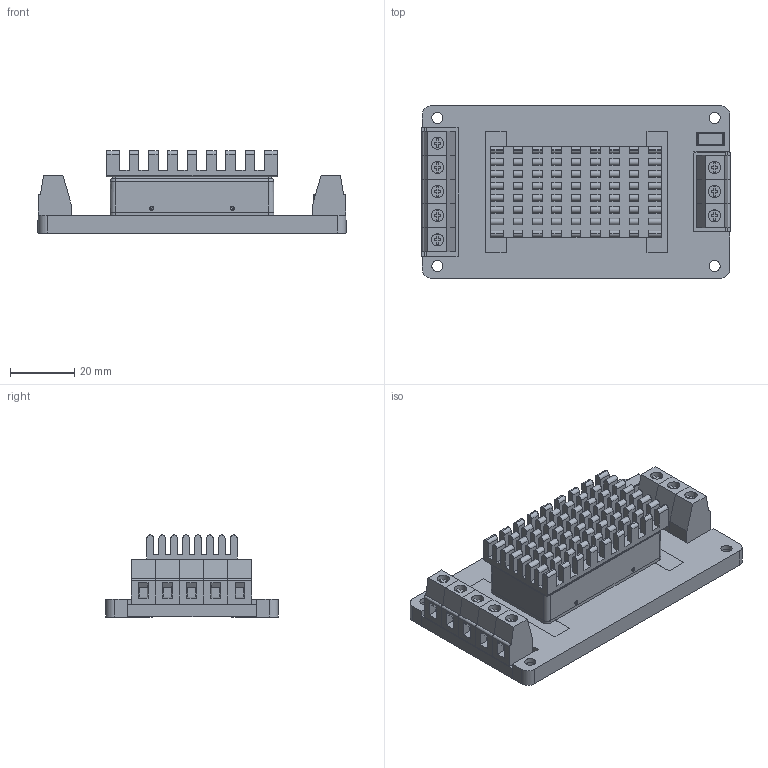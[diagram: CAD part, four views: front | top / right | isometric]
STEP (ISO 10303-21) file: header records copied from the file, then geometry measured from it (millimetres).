
FILE_DESCRIPTION(/* description */ (''),/* implementation_level */ '2;1');
FILE_NAME(/* name */ 'D:\Inventor\3D Files\200508\ST50F-X - A2.stp',/* time_stamp */ '2020-04-23T11:34:09+08:00',/* author */ ('peter'),/* organization */ (''),/* preprocessor_version */ 'ST-DEVELOPER v15.2',/* originating_system */ 'Autodesk Inventor 2014',/* authorisation */ '');
FILE_SCHEMA (('AUTOMOTIVE_DESIGN { 1 0 10303 214 3 1 1 }'));
Length unit declared in the file: millimetre
Products named in the file (12): PCB; TOP CASE - A2; BOT CASE - A2 _ TRACO; DT-128-01; INLET - A2 - IN; INLET - A2 - OUT; HOLDER - AHC AFC; A2 ASSEMBLY; ST50F; HEATSINK _ 53x28x8 mm; ST50F - X; ST50F-X - A2
Bounding box: 95.8 x 53.5 x 25.5 mm (x, y, z)
Volume: 36321.1 mm3; surface area: 54730.4 mm2
Topology: 15 solids, 16 shells, 1025 faces, 2649 edges, 1752 vertices
Faces by surface type: plane 818, cylinder 181, torus 10, sphere 8, bspline 8
Full cylindrical faces by diameter (mm): 1.2 x12, 1.39 x4, 3.476 x4, 3.5 x8, 3.8 x8, 3.972 x1, 5.5 x4
Entity records: 22675 total; most frequent: CARTESIAN_POINT 4025, DIRECTION 3737, ORIENTED_EDGE 3730, EDGE_CURVE 1865, LINE 1501, VECTOR 1501, VERTEX_POINT 1262, AXIS2_PLACEMENT_3D 1118
